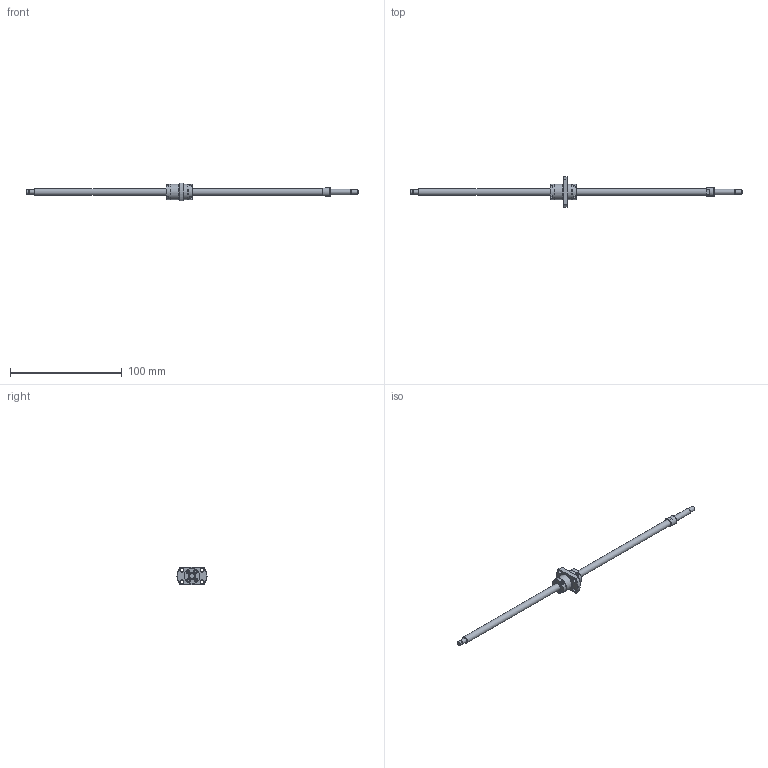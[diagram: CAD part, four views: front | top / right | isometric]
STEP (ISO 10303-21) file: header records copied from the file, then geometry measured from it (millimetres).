
FILE_DESCRIPTION(/* description */ ('STEP AP214'),/* implementation_level */ '2;1');
FILE_NAME(/* name */ 'SRT0610-253R297C7B0X(117.5Processing)',/* time_stamp */ '2026-08-04T18:46:47+02:00',/* author */ ('License CC BY-ND 4.0'),/* organization */ ('CADENAS'),/* preprocessor_version */ 'ST-DEVELOPER v20',/* originating_system */ 'PARTsolutions',/* authorisation */ ' ');
FILE_SCHEMA (('AUTOMOTIVE_DESIGN {1 0 10303 214 3 1 1}'));
Length unit declared in the file: millimetre
Products named in the file (3): SRT0610-253R297C7B0X(117.5Processing); SRT0610-253R335BCt7Processing26Shaft; SRT0610Nut
Assembly tree (2 placements, depth 2):
  SRT0610-253R297C7B0X(117.5Processing)
    SRT0610-253R335BCt7Processing26Shaft
    SRT0610Nut
Bounding box: 297 x 27 x 16 mm (x, y, z)
Volume: 11769.6 mm3; surface area: 8247.2 mm2
Topology: 2 solids, 2 shells, 154 faces, 363 edges, 240 vertices
Faces by surface type: plane 109, cylinder 35, cone 9, torus 1
Full cylindrical faces by diameter (mm): 3 x8, 3.4 x4, 3.7 x1, 4 x3, 5 x1, 6 x2, 8 x1, 13.6 x1, 13.8 x2, 14 x2
Entity records: 4337 total; most frequent: CARTESIAN_POINT 747, DIRECTION 732, ORIENTED_EDGE 658, EDGE_CURVE 329, AXIS2_PLACEMENT_3D 254, VERTEX_POINT 237, LINE 224, VECTOR 224
